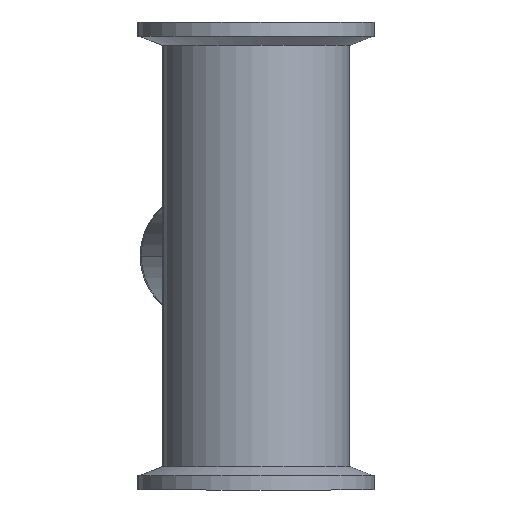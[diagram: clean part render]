
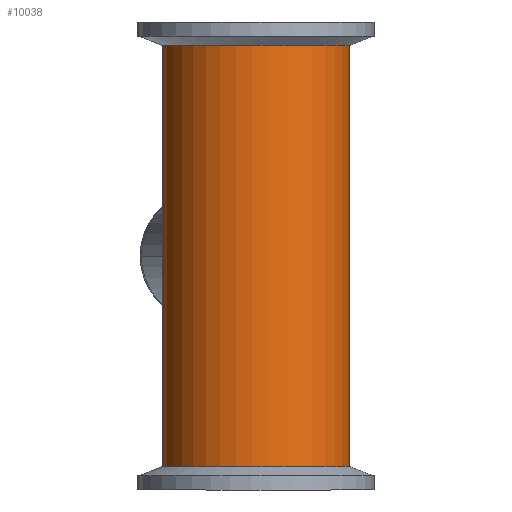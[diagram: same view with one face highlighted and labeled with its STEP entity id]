
A CAD part, front view. The second image highlights one B-rep face of the part: STEP entity #10038.
In plain terms, the highlighted cylindrical face has radius 20 mm (diameter 40 mm), a partial arc.
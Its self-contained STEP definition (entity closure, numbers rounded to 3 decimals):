
#526 = CIRCLE ( 'NONE', #7730, 20. ) ;
#598 = VERTEX_POINT ( 'NONE', #5389 ) ;
#877 = LINE ( 'NONE', #4493, #11308 ) ;
#970 = EDGE_CURVE ( 'NONE', #9774, #7714, #526, .T. ) ;
#987 = CARTESIAN_POINT ( 'NONE',  ( -20., 0., 45. ) ) ;
#1741 = VECTOR ( 'NONE', #10314, 1000. ) ;
#1813 = CARTESIAN_POINT ( 'NONE',  ( 0., 0., -45. ) ) ;
#1962 = ORIENTED_EDGE ( 'NONE', *, *, #970, .T. ) ;
#3080 = CARTESIAN_POINT ( 'NONE',  ( 0., 0., 45. ) ) ;
#3312 = FACE_OUTER_BOUND ( 'NONE', #6019, .T. ) ;
#4129 = CYLINDRICAL_SURFACE ( 'NONE', #4207, 20. ) ;
#4207 = AXIS2_PLACEMENT_3D ( 'NONE', #10696, #10460, #7843 ) ;
#4428 = ORIENTED_EDGE ( 'NONE', *, *, #4571, .T. ) ;
#4493 = CARTESIAN_POINT ( 'NONE',  ( 20., 0., 50. ) ) ;
#4571 = EDGE_CURVE ( 'NONE', #7714, #598, #8111, .T. ) ;
#4756 = CARTESIAN_POINT ( 'NONE',  ( -20., 0., 50. ) ) ;
#4881 = CARTESIAN_POINT ( 'NONE',  ( 20., 0., 45. ) ) ;
#4952 = CIRCLE ( 'NONE', #11621, 20. ) ;
#5383 = DIRECTION ( 'NONE',  ( 0., 0., -1. ) ) ;
#5389 = CARTESIAN_POINT ( 'NONE',  ( -20., 0., -45. ) ) ;
#5827 = CARTESIAN_POINT ( 'NONE',  ( 20., 0., -45. ) ) ;
#5939 = ORIENTED_EDGE ( 'NONE', *, *, #10886, .F. ) ;
#5993 = DIRECTION ( 'NONE',  ( -1., 0., 0. ) ) ;
#6019 = EDGE_LOOP ( 'NONE', ( #8743, #1962, #4428, #5939 ) ) ;
#6913 = EDGE_CURVE ( 'NONE', #9774, #8369, #877, .T. ) ;
#7289 = DIRECTION ( 'NONE',  ( 0., 0., -1. ) ) ;
#7714 = VERTEX_POINT ( 'NONE', #987 ) ;
#7730 = AXIS2_PLACEMENT_3D ( 'NONE', #3080, #11230, #5993 ) ;
#7843 = DIRECTION ( 'NONE',  ( -1., 0., 0. ) ) ;
#8111 = LINE ( 'NONE', #4756, #1741 ) ;
#8369 = VERTEX_POINT ( 'NONE', #5827 ) ;
#8743 = ORIENTED_EDGE ( 'NONE', *, *, #6913, .F. ) ;
#9774 = VERTEX_POINT ( 'NONE', #4881 ) ;
#10038 = ADVANCED_FACE ( 'NONE', ( #3312 ), #4129, .T. ) ;
#10314 = DIRECTION ( 'NONE',  ( 0., 0., -1. ) ) ;
#10460 = DIRECTION ( 'NONE',  ( 0., 0., -1. ) ) ;
#10696 = CARTESIAN_POINT ( 'NONE',  ( 0., 0., 50. ) ) ;
#10886 = EDGE_CURVE ( 'NONE', #8369, #598, #4952, .T. ) ;
#10911 = DIRECTION ( 'NONE',  ( -1., 0., 0. ) ) ;
#11230 = DIRECTION ( 'NONE',  ( 0., 0., -1. ) ) ;
#11308 = VECTOR ( 'NONE', #5383, 1000. ) ;
#11621 = AXIS2_PLACEMENT_3D ( 'NONE', #1813, #7289, #10911 ) ;
